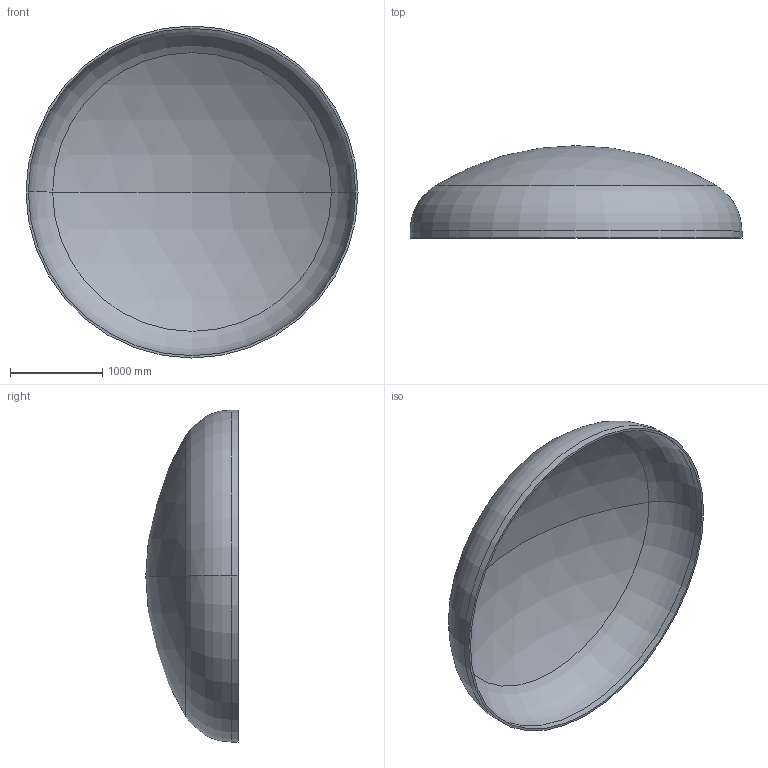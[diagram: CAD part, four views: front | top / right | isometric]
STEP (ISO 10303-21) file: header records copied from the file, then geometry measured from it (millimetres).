
FILE_DESCRIPTION (( 'STEP AP203' ), '1' );
FILE_NAME ('DIN 28013 Korbbogenform_-_Boden DIN 28013 - 3600 x 75 - I - s=25.step', '2016-07-01T20:14:32', ( '' ), ( '' ), 'SwSTEP 2.0', 'SolidWorks 2013', '' );
FILE_SCHEMA (( 'CONFIG_CONTROL_DESIGN' ));
Length unit declared in the file: millimetre
Products named in the file (1): DIN 28013 Korbbogenform_-_Boden DIN 28013 - 3600 x 75 - I - s=25
Bounding box: 3600 x 1000.8 x 3600 mm (x, y, z)
Volume: 370351598.3 mm3; surface area: 29910205.3 mm2
Topology: 1 solids, 1 shells, 13 faces, 24 edges, 14 vertices
Faces by surface type: torus 4, cylinder 4, sphere 4, plane 1
Entity records: 407 total; most frequent: DIRECTION 72, CARTESIAN_POINT 52, ORIENTED_EDGE 48, AXIS2_PLACEMENT_3D 34, EDGE_CURVE 24, CIRCLE 20, VERTEX_POINT 14, EDGE_LOOP 14
